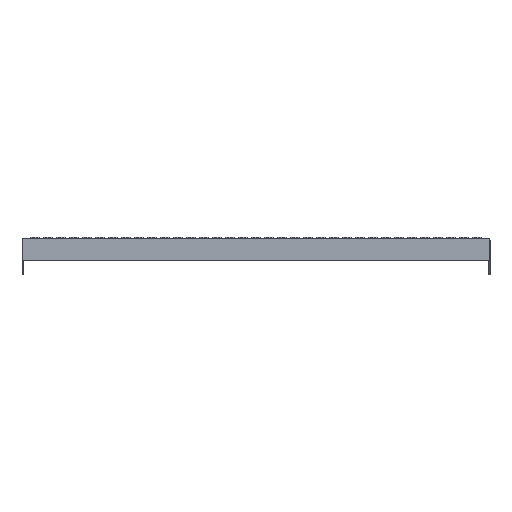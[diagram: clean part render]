
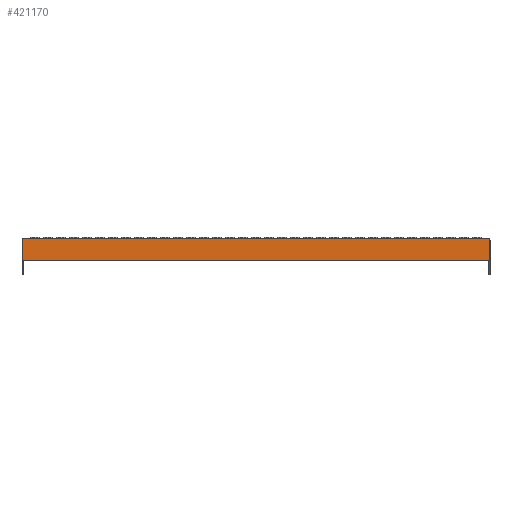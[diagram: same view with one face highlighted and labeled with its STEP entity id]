
A CAD part, front view. The second image highlights one B-rep face of the part: STEP entity #421170.
In plain terms, the highlighted planar face has unit normal (0, -1, 0).
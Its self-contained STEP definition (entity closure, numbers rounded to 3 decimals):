
#421170 = ADVANCED_FACE('',(#421171),#421185,.T.);
#421171 = FACE_BOUND('',#421172,.T.);
#421172 = EDGE_LOOP('',(#421173,#421196,#421212,#421228));
#421173 = ORIENTED_EDGE('',*,*,#421174,.T.);
#421174 = EDGE_CURVE('',#421175,#421177,#421179,.T.);
#421175 = VERTEX_POINT('',#421176);
#421176 = CARTESIAN_POINT('',(6900.,8720.,
    0.));
#421177 = VERTEX_POINT('',#421178);
#421178 = CARTESIAN_POINT('',(6000.,8720.,
    0.));
#421179 = SURFACE_CURVE('',#421180,(#421184),.PCURVE_S1.);
#421180 = LINE('',#421181,#421182);
#421181 = CARTESIAN_POINT('',(6900.,8720.,
    0.));
#421182 = VECTOR('',#421183,1.);
#421183 = DIRECTION('',(-1.,0.,0.));
#421184 = PCURVE('',#421185,#421190);
#421185 = PLANE('',#421186);
#421186 = AXIS2_PLACEMENT_3D('',#421187,#421188,#421189);
#421187 = CARTESIAN_POINT('',(6450.,8720.,
    -21.25));
#421188 = DIRECTION('',(-0.,-1.,-0.));
#421189 = DIRECTION('',(0.,0.,-1.));
#421190 = DEFINITIONAL_REPRESENTATION('',(#421191),#421195);
#421191 = LINE('',#421192,#421193);
#421192 = CARTESIAN_POINT('',(-21.25,450.));
#421193 = VECTOR('',#421194,1.);
#421194 = DIRECTION('',(0.,-1.));
#421195 = ( GEOMETRIC_REPRESENTATION_CONTEXT(2) 
PARAMETRIC_REPRESENTATION_CONTEXT() REPRESENTATION_CONTEXT('2D SPACE',''
  ) );
#421196 = ORIENTED_EDGE('',*,*,#421197,.T.);
#421197 = EDGE_CURVE('',#421177,#421198,#421200,.T.);
#421198 = VERTEX_POINT('',#421199);
#421199 = CARTESIAN_POINT('',(6000.,8720.,-42.5)
  );
#421200 = SURFACE_CURVE('',#421201,(#421205),.PCURVE_S1.);
#421201 = LINE('',#421202,#421203);
#421202 = CARTESIAN_POINT('',(6000.,8720.,
    0.));
#421203 = VECTOR('',#421204,1.);
#421204 = DIRECTION('',(0.,0.,-1.));
#421205 = PCURVE('',#421185,#421206);
#421206 = DEFINITIONAL_REPRESENTATION('',(#421207),#421211);
#421207 = LINE('',#421208,#421209);
#421208 = CARTESIAN_POINT('',(-21.25,-450.));
#421209 = VECTOR('',#421210,1.);
#421210 = DIRECTION('',(1.,0.));
#421211 = ( GEOMETRIC_REPRESENTATION_CONTEXT(2) 
PARAMETRIC_REPRESENTATION_CONTEXT() REPRESENTATION_CONTEXT('2D SPACE',''
  ) );
#421212 = ORIENTED_EDGE('',*,*,#421213,.T.);
#421213 = EDGE_CURVE('',#421198,#421214,#421216,.T.);
#421214 = VERTEX_POINT('',#421215);
#421215 = CARTESIAN_POINT('',(6900.,8720.,
    -42.5));
#421216 = SURFACE_CURVE('',#421217,(#421221),.PCURVE_S1.);
#421217 = LINE('',#421218,#421219);
#421218 = CARTESIAN_POINT('',(6000.,8720.,-42.5)
  );
#421219 = VECTOR('',#421220,1.);
#421220 = DIRECTION('',(1.,0.,0.));
#421221 = PCURVE('',#421185,#421222);
#421222 = DEFINITIONAL_REPRESENTATION('',(#421223),#421227);
#421223 = LINE('',#421224,#421225);
#421224 = CARTESIAN_POINT('',(21.25,-450.));
#421225 = VECTOR('',#421226,1.);
#421226 = DIRECTION('',(0.,1.));
#421227 = ( GEOMETRIC_REPRESENTATION_CONTEXT(2) 
PARAMETRIC_REPRESENTATION_CONTEXT() REPRESENTATION_CONTEXT('2D SPACE',''
  ) );
#421228 = ORIENTED_EDGE('',*,*,#421229,.T.);
#421229 = EDGE_CURVE('',#421214,#421175,#421230,.T.);
#421230 = SURFACE_CURVE('',#421231,(#421235),.PCURVE_S1.);
#421231 = LINE('',#421232,#421233);
#421232 = CARTESIAN_POINT('',(6900.,8720.,
    -42.5));
#421233 = VECTOR('',#421234,1.);
#421234 = DIRECTION('',(0.,0.,1.));
#421235 = PCURVE('',#421185,#421236);
#421236 = DEFINITIONAL_REPRESENTATION('',(#421237),#421241);
#421237 = LINE('',#421238,#421239);
#421238 = CARTESIAN_POINT('',(21.25,450.));
#421239 = VECTOR('',#421240,1.);
#421240 = DIRECTION('',(-1.,0.));
#421241 = ( GEOMETRIC_REPRESENTATION_CONTEXT(2) 
PARAMETRIC_REPRESENTATION_CONTEXT() REPRESENTATION_CONTEXT('2D SPACE',''
  ) );
